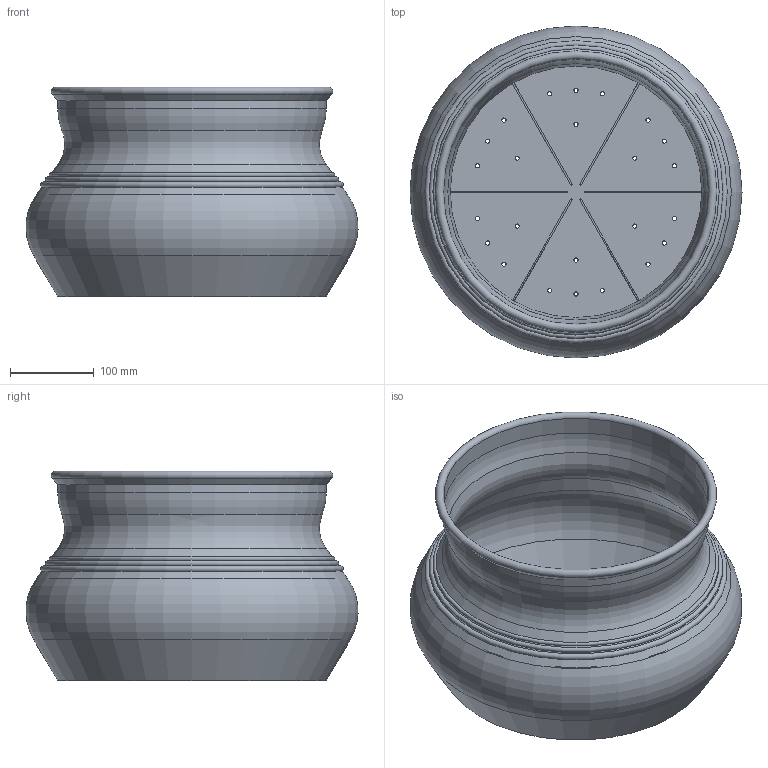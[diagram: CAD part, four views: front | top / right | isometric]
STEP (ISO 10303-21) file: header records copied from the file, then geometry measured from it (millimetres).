
FILE_DESCRIPTION(/* description */ (''),/* implementation_level */ '2;1');
FILE_NAME(/* name */ 'LR2406-S20-H250-D400_step.step',/* time_stamp */ '2024-02-01T11:02:25+01:00',/* author */ (''),/* organization */ (''),/* preprocessor_version */ 'ST-DEVELOPER v20',/* originating_system */ 'Autodesk Translation Framework v12.20.1.177',/* authorisation */ '');
FILE_SCHEMA (('AUTOMOTIVE_DESIGN { 1 0 10303 214 3 1 1 }'));
Length unit declared in the file: millimetre
Products named in the file (1): LR2406-S20-H250-D400
Bounding box: 395.91 x 395.91 x 250 mm (x, y, z)
Volume: 859890.8 mm3; surface area: 774807.8 mm2
Topology: 1 solids, 1 shells, 70 faces, 185 edges, 117 vertices
Faces by surface type: cylinder 32, plane 20, torus 10, cone 8
Full cylindrical faces by diameter (mm): 5 x24, 316 x1, 320 x1
Entity records: 2336 total; most frequent: DIRECTION 430, CARTESIAN_POINT 373, ORIENTED_EDGE 370, EDGE_CURVE 185, AXIS2_PLACEMENT_3D 174, EDGE_LOOP 118, VERTEX_POINT 117, CIRCLE 103
